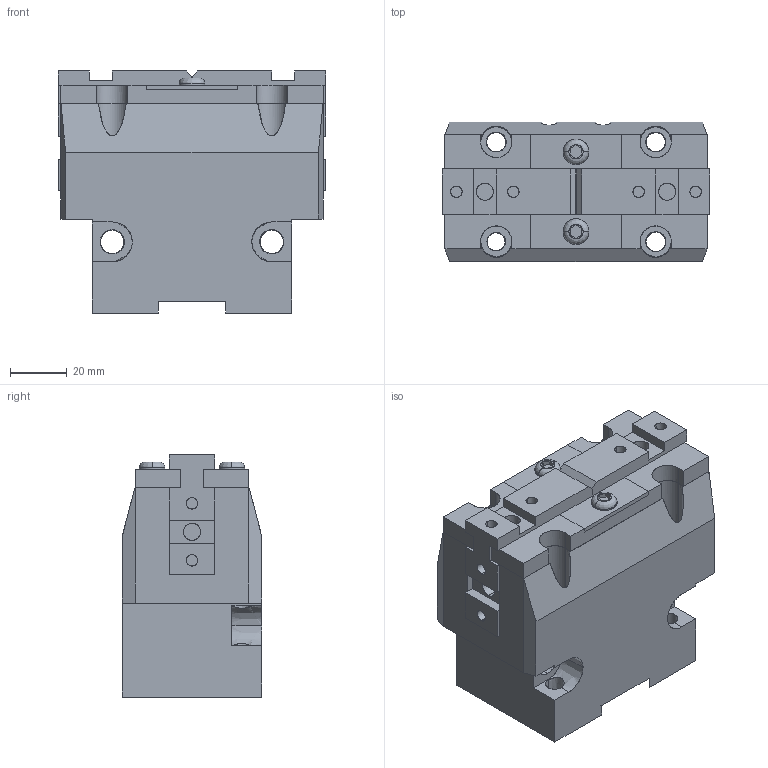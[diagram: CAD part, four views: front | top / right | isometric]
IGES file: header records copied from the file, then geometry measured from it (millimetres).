
Global section: file name: C:\Documents and Settings\Administrateur\Mes documents\OPE-95-X-CLOSED.igs; native system: AutoCAD-16.0s (LMS Tech) (Microsoft Windows NT Version 5.1 (x86)); preprocessor: Autodesk IGES Translator Mechanical Desktop.R7.0.43.0 (Mar 18 2003) from Autodesk, Inc.; date: 20050629.074347; units: millimetre
Bounding box: 94 x 49 x 85 mm (x, y, z)
Surface area: 70098.4 mm2 (no closed solid volume)
Topology: 0 solids, 0 shells, 267 faces, 2555 edges, 2653 vertices
Faces by surface type: bspline 267
